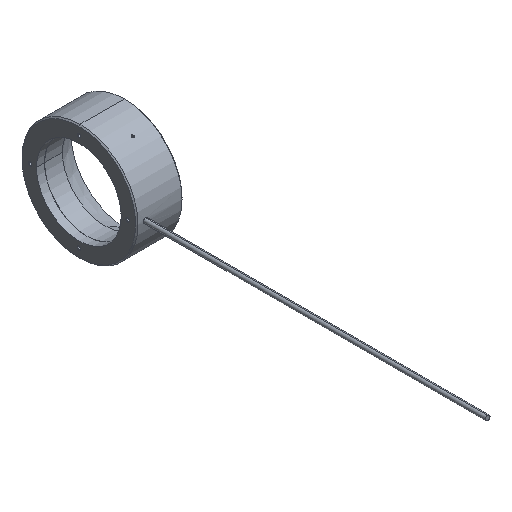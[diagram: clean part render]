
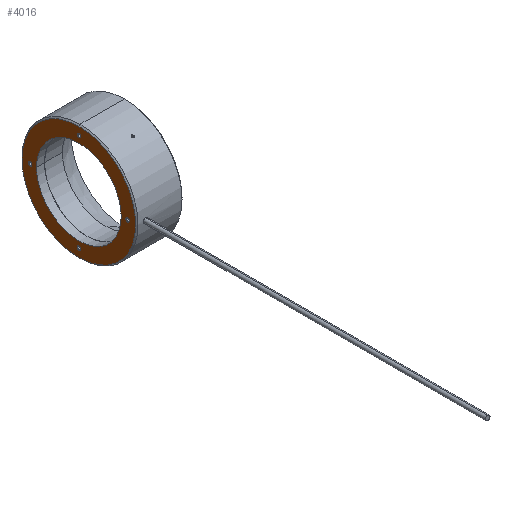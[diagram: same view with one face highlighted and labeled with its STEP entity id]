
A CAD part, isometric view. The second image highlights one B-rep face of the part: STEP entity #4016.
In plain terms, the highlighted planar face has unit normal (-1, 0, 0).
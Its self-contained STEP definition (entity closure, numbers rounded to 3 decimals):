
#6 = CIRCLE ( 'NONE', #27, 1.525 ) ;
#27 = AXIS2_PLACEMENT_3D ( 'NONE', #1272, #1273, #1274 ) ;
#29 = AXIS2_PLACEMENT_3D ( 'NONE', #178, #179, #180 ) ;
#30 = CIRCLE ( 'NONE', #29, 49. ) ;
#69 = AXIS2_PLACEMENT_3D ( 'NONE', #1555, #1556, #1557 ) ;
#77 = CIRCLE ( 'NONE', #83, 36.5 ) ;
#83 = AXIS2_PLACEMENT_3D ( 'NONE', #1590, #1591, #1592 ) ;
#136 = AXIS2_PLACEMENT_3D ( 'NONE', #1046, #1047, #1048 ) ;
#137 = CIRCLE ( 'NONE', #136, 1.525 ) ;
#178 = CARTESIAN_POINT ( 'NONE',  ( 0., 0., 0. ) ) ;
#179 = DIRECTION ( 'NONE',  ( 1., 0., 0. ) ) ;
#180 = DIRECTION ( 'NONE',  ( 0., 0., -1. ) ) ;
#215 = CARTESIAN_POINT ( 'NONE',  ( 0., 0., 0. ) ) ;
#369 = CARTESIAN_POINT ( 'NONE',  ( 0., 0., -42. ) ) ;
#370 = DIRECTION ( 'NONE',  ( -1., 0., 0. ) ) ;
#371 = DIRECTION ( 'NONE',  ( 0., 0., 1. ) ) ;
#379 = CARTESIAN_POINT ( 'NONE',  ( 0., 0., -42. ) ) ;
#380 = DIRECTION ( 'NONE',  ( -1., 0., 0. ) ) ;
#381 = DIRECTION ( 'NONE',  ( 0., 0., 1. ) ) ;
#561 = CIRCLE ( 'NONE', #567, 1.525 ) ;
#567 = AXIS2_PLACEMENT_3D ( 'NONE', #2387, #2388, #2389 ) ;
#660 = CIRCLE ( 'NONE', #710, 1.525 ) ;
#710 = AXIS2_PLACEMENT_3D ( 'NONE', #369, #370, #371 ) ;
#712 = AXIS2_PLACEMENT_3D ( 'NONE', #905, #906, #907 ) ;
#726 = CIRCLE ( 'NONE', #712, 1.525 ) ;
#731 = AXIS2_PLACEMENT_3D ( 'NONE', #379, #380, #381 ) ;
#745 = CIRCLE ( 'NONE', #751, 36.5 ) ;
#748 = CIRCLE ( 'NONE', #731, 1.525 ) ;
#751 = AXIS2_PLACEMENT_3D ( 'NONE', #215, #786, #787 ) ;
#786 = DIRECTION ( 'NONE',  ( -1., 0., 0. ) ) ;
#787 = DIRECTION ( 'NONE',  ( 0., -1., 0. ) ) ;
#905 = CARTESIAN_POINT ( 'NONE',  ( 0., 42., 0. ) ) ;
#906 = DIRECTION ( 'NONE',  ( -1., 0., 0. ) ) ;
#907 = DIRECTION ( 'NONE',  ( 0., 0., 1. ) ) ;
#971 = AXIS2_PLACEMENT_3D ( 'NONE', #1321, #1322, #1323 ) ;
#972 = CIRCLE ( 'NONE', #971, 1.525 ) ;
#1046 = CARTESIAN_POINT ( 'NONE',  ( 0., 42., 0. ) ) ;
#1047 = DIRECTION ( 'NONE',  ( -1., 0., 0. ) ) ;
#1048 = DIRECTION ( 'NONE',  ( 0., 0., 1. ) ) ;
#1272 = CARTESIAN_POINT ( 'NONE',  ( 0., 0., 42. ) ) ;
#1273 = DIRECTION ( 'NONE',  ( -1., 0., 0. ) ) ;
#1274 = DIRECTION ( 'NONE',  ( 0., 0., 1. ) ) ;
#1321 = CARTESIAN_POINT ( 'NONE',  ( 0., 0., 42. ) ) ;
#1322 = DIRECTION ( 'NONE',  ( -1., 0., 0. ) ) ;
#1323 = DIRECTION ( 'NONE',  ( 0., 0., 1. ) ) ;
#1391 = ORIENTED_EDGE ( 'NONE', *, *, #3218, .F. ) ;
#1412 = ORIENTED_EDGE ( 'NONE', *, *, #4020, .F. ) ;
#1446 = ORIENTED_EDGE ( 'NONE', *, *, #3965, .F. ) ;
#1525 = FACE_BOUND ( 'NONE', #3345, .T. ) ;
#1539 = FACE_BOUND ( 'NONE', #3290, .T. ) ;
#1540 = FACE_BOUND ( 'NONE', #3344, .T. ) ;
#1541 = FACE_OUTER_BOUND ( 'NONE', #3268, .T. ) ;
#1542 = PLANE ( 'NONE',  #69 ) ;
#1543 = FACE_BOUND ( 'NONE', #3288, .T. ) ;
#1545 = FACE_BOUND ( 'NONE', #3212, .T. ) ;
#1555 = CARTESIAN_POINT ( 'NONE',  ( 0., 49.588, -49.588 ) ) ;
#1556 = DIRECTION ( 'NONE',  ( 1., 0., 0. ) ) ;
#1557 = DIRECTION ( 'NONE',  ( 0., 0., 1. ) ) ;
#1590 = CARTESIAN_POINT ( 'NONE',  ( 0., 0., 0. ) ) ;
#1591 = DIRECTION ( 'NONE',  ( -1., 0., 0. ) ) ;
#1592 = DIRECTION ( 'NONE',  ( 0., -1., 0. ) ) ;
#1804 = ORIENTED_EDGE ( 'NONE', *, *, #3117, .F. ) ;
#1810 = CARTESIAN_POINT ( 'NONE',  ( 0., 0., 49. ) ) ;
#1816 = CARTESIAN_POINT ( 'NONE',  ( 0., 42., -1.525 ) ) ;
#1826 = CARTESIAN_POINT ( 'NONE',  ( 0., 0., -49. ) ) ;
#1829 = CARTESIAN_POINT ( 'NONE',  ( 0., 0., 40.475 ) ) ;
#1843 = CARTESIAN_POINT ( 'NONE',  ( 0., -42., -1.525 ) ) ;
#1862 = VERTEX_POINT ( 'NONE', #1810 ) ;
#1869 = VERTEX_POINT ( 'NONE', #1816 ) ;
#1879 = VERTEX_POINT ( 'NONE', #1826 ) ;
#1882 = VERTEX_POINT ( 'NONE', #1829 ) ;
#1896 = VERTEX_POINT ( 'NONE', #1843 ) ;
#1914 = VERTEX_POINT ( 'NONE', #3468 ) ;
#1928 = VERTEX_POINT ( 'NONE', #3482 ) ;
#1954 = VERTEX_POINT ( 'NONE', #3507 ) ;
#1963 = VERTEX_POINT ( 'NONE', #3515 ) ;
#1973 = VERTEX_POINT ( 'NONE', #3525 ) ;
#1975 = VERTEX_POINT ( 'NONE', #3527 ) ;
#1982 = VERTEX_POINT ( 'NONE', #3534 ) ;
#2023 = ORIENTED_EDGE ( 'NONE', *, *, #4038, .F. ) ;
#2230 = AXIS2_PLACEMENT_3D ( 'NONE', #2484, #2485, #2486 ) ;
#2246 = AXIS2_PLACEMENT_3D ( 'NONE', #2318, #2319, #2320 ) ;
#2249 = CIRCLE ( 'NONE', #2246, 49. ) ;
#2260 = CIRCLE ( 'NONE', #2230, 1.525 ) ;
#2318 = CARTESIAN_POINT ( 'NONE',  ( 0., 0., 0. ) ) ;
#2319 = DIRECTION ( 'NONE',  ( 1., 0., 0. ) ) ;
#2320 = DIRECTION ( 'NONE',  ( 0., 0., -1. ) ) ;
#2387 = CARTESIAN_POINT ( 'NONE',  ( 0., -42., 0. ) ) ;
#2388 = DIRECTION ( 'NONE',  ( -1., 0., 0. ) ) ;
#2389 = DIRECTION ( 'NONE',  ( 0., 0., 1. ) ) ;
#2484 = CARTESIAN_POINT ( 'NONE',  ( 0., -42., 0. ) ) ;
#2485 = DIRECTION ( 'NONE',  ( -1., 0., 0. ) ) ;
#2486 = DIRECTION ( 'NONE',  ( 0., 0., 1. ) ) ;
#2550 = ORIENTED_EDGE ( 'NONE', *, *, #3105, .F. ) ;
#3097 = EDGE_CURVE ( 'NONE', #1928, #1882, #6, .T. ) ;
#3105 = EDGE_CURVE ( 'NONE', #1879, #1862, #30, .T. ) ;
#3117 = EDGE_CURVE ( 'NONE', #1973, #1975, #745, .T. ) ;
#3155 = EDGE_CURVE ( 'NONE', #1982, #1869, #726, .T. ) ;
#3212 = EDGE_LOOP ( 'NONE', ( #3827, #2023 ) ) ;
#3218 = EDGE_CURVE ( 'NONE', #1954, #1914, #660, .T. ) ;
#3225 = EDGE_CURVE ( 'NONE', #1914, #1954, #748, .T. ) ;
#3233 = ORIENTED_EDGE ( 'NONE', *, *, #3097, .F. ) ;
#3268 = EDGE_LOOP ( 'NONE', ( #2550, #3832 ) ) ;
#3288 = EDGE_LOOP ( 'NONE', ( #3233, #1446 ) ) ;
#3290 = EDGE_LOOP ( 'NONE', ( #1391, #3805 ) ) ;
#3344 = EDGE_LOOP ( 'NONE', ( #1804, #1412 ) ) ;
#3345 = EDGE_LOOP ( 'NONE', ( #3825, #3751 ) ) ;
#3468 = CARTESIAN_POINT ( 'NONE',  ( 0., 0., -43.525 ) ) ;
#3482 = CARTESIAN_POINT ( 'NONE',  ( 0., 0., 43.525 ) ) ;
#3507 = CARTESIAN_POINT ( 'NONE',  ( 0., 0., -40.475 ) ) ;
#3515 = CARTESIAN_POINT ( 'NONE',  ( 0., -42., 1.525 ) ) ;
#3525 = CARTESIAN_POINT ( 'NONE',  ( 0., -36.5, 0. ) ) ;
#3527 = CARTESIAN_POINT ( 'NONE',  ( 0., 36.5, 0. ) ) ;
#3534 = CARTESIAN_POINT ( 'NONE',  ( 0., 42., 1.525 ) ) ;
#3751 = ORIENTED_EDGE ( 'NONE', *, *, #3907, .F. ) ;
#3805 = ORIENTED_EDGE ( 'NONE', *, *, #3225, .F. ) ;
#3825 = ORIENTED_EDGE ( 'NONE', *, *, #3918, .F. ) ;
#3827 = ORIENTED_EDGE ( 'NONE', *, *, #3155, .F. ) ;
#3832 = ORIENTED_EDGE ( 'NONE', *, *, #3934, .F. ) ;
#3907 = EDGE_CURVE ( 'NONE', #1896, #1963, #561, .T. ) ;
#3918 = EDGE_CURVE ( 'NONE', #1963, #1896, #2260, .T. ) ;
#3934 = EDGE_CURVE ( 'NONE', #1862, #1879, #2249, .T. ) ;
#3965 = EDGE_CURVE ( 'NONE', #1882, #1928, #972, .T. ) ;
#4016 = ADVANCED_FACE ( 'NONE', ( #1540, #1525, #1543, #1545, #1539, #1541 ), #1542, .F. ) ;
#4020 = EDGE_CURVE ( 'NONE', #1975, #1973, #77, .T. ) ;
#4038 = EDGE_CURVE ( 'NONE', #1869, #1982, #137, .T. ) ;
